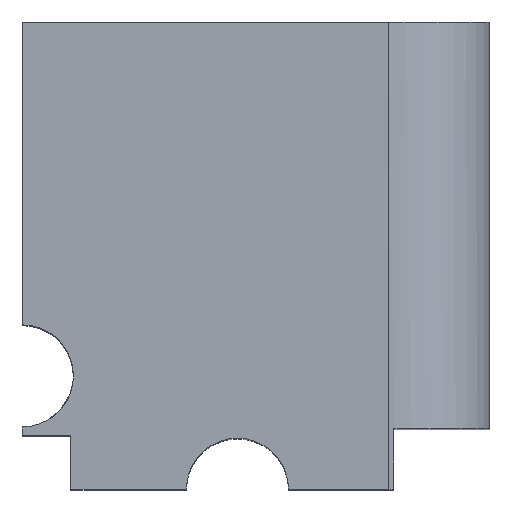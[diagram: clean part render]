
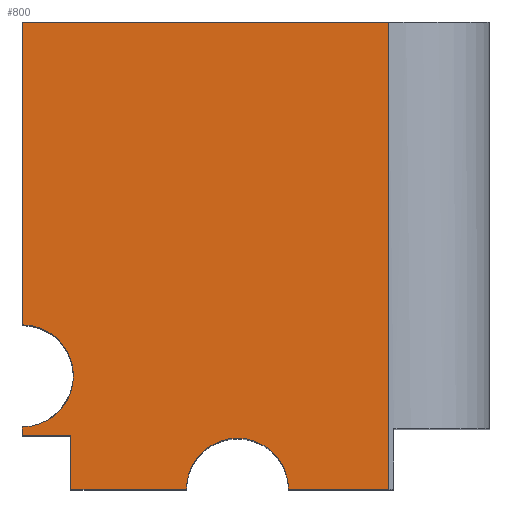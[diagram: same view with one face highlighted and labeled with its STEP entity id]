
A CAD part, top view. The second image highlights one B-rep face of the part: STEP entity #800.
In plain terms, the highlighted planar face has unit normal (0, 0, 1).
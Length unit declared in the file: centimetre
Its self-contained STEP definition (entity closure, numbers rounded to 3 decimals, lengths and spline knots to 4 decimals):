
#14 = CARTESIAN_POINT ( 'NONE',  ( 0., 1000., 1000. ) ) ;
#33 = CARTESIAN_POINT ( 'NONE',  ( 0., 351.7812, 1000. ) ) ;
#62 = CARTESIAN_POINT ( 'NONE',  ( 0., 1000., 1000. ) ) ;
#79 = CARTESIAN_POINT ( 'NONE',  ( 0., 242.5299, 1000. ) ) ;
#132 = LINE ( 'NONE', #852, #356 ) ;
#164 = EDGE_CURVE ( 'NONE', #335, #399, #1139, .T. ) ;
#184 = CARTESIAN_POINT ( 'NONE',  ( 460.3973, 0., 1000. ) ) ;
#186 = VECTOR ( 'NONE', #771, 100. ) ;
#191 = ORIENTED_EDGE ( 'NONE', *, *, #686, .T. ) ;
#226 = VECTOR ( 'NONE', #1092, 100. ) ;
#241 = DIRECTION ( 'NONE',  ( -1., 0., 0. ) ) ;
#248 = VECTOR ( 'NONE', #699, 100. ) ;
#292 = DIRECTION ( 'NONE',  ( 1., 0., 0. ) ) ;
#319 = VECTOR ( 'NONE', #241, 100. ) ;
#335 = VERTEX_POINT ( 'NONE', #347 ) ;
#347 = CARTESIAN_POINT ( 'NONE',  ( 351.2312, 0., 1000. ) ) ;
#351 = LINE ( 'NONE', #1081, #1287 ) ;
#356 = VECTOR ( 'NONE', #1054, 100. ) ;
#357 = VERTEX_POINT ( 'NONE', #1097 ) ;
#365 = LINE ( 'NONE', #1283, #226 ) ;
#399 = VERTEX_POINT ( 'NONE', #693 ) ;
#431 = AXIS2_PLACEMENT_3D ( 'NONE', #79, #611, #292 ) ;
#447 = LINE ( 'NONE', #659, #1316 ) ;
#452 = AXIS2_PLACEMENT_3D ( 'NONE', #783, #1180, #1074 ) ;
#502 = CARTESIAN_POINT ( 'NONE',  ( 103.8869, 0., 1000. ) ) ;
#507 = DIRECTION ( 'NONE',  ( -1., 0., 0. ) ) ;
#562 = ORIENTED_EDGE ( 'NONE', *, *, #700, .T. ) ;
#566 = DIRECTION ( 'NONE',  ( 0., 1., 0. ) ) ;
#572 = CARTESIAN_POINT ( 'NONE',  ( 0., 133.2786, 1000. ) ) ;
#580 = EDGE_CURVE ( 'NONE', #357, #764, #1012, .T. ) ;
#594 = CARTESIAN_POINT ( 'NONE',  ( 0., 0., 1000. ) ) ;
#611 = DIRECTION ( 'NONE',  ( 0., 0., 1. ) ) ;
#627 = AXIS2_PLACEMENT_3D ( 'NONE', #594, #900, #711 ) ;
#631 = DIRECTION ( 'NONE',  ( -1., 0., 0. ) ) ;
#648 = CIRCLE ( 'NONE', #431, 109.2513 ) ;
#659 = CARTESIAN_POINT ( 'NONE',  ( 783.6953, 1000., 1000. ) ) ;
#686 = EDGE_CURVE ( 'NONE', #399, #821, #132, .T. ) ;
#693 = CARTESIAN_POINT ( 'NONE',  ( 569.5634, 0., 1000. ) ) ;
#694 = PLANE ( 'NONE',  #627 ) ;
#696 = VERTEX_POINT ( 'NONE', #33 ) ;
#699 = DIRECTION ( 'NONE',  ( 0., -1., 0. ) ) ;
#700 = EDGE_CURVE ( 'NONE', #821, #357, #447, .T. ) ;
#704 = LINE ( 'NONE', #62, #248 ) ;
#711 = DIRECTION ( 'NONE',  ( 1., 0., 0. ) ) ;
#746 = EDGE_CURVE ( 'NONE', #966, #696, #648, .T. ) ;
#763 = EDGE_CURVE ( 'NONE', #764, #696, #704, .T. ) ;
#764 = VERTEX_POINT ( 'NONE', #812 ) ;
#771 = DIRECTION ( 'NONE',  ( 1., 0., 0. ) ) ;
#778 = CARTESIAN_POINT ( 'NONE',  ( 0., 0., 1000. ) ) ;
#783 = CARTESIAN_POINT ( 'NONE',  ( 0., 242.5299, 1000. ) ) ;
#790 = LINE ( 'NONE', #974, #319 ) ;
#800 = ADVANCED_FACE ( 'NONE', ( #1308 ), #694, .T. ) ;
#812 = CARTESIAN_POINT ( 'NONE',  ( 0., 1000., 1000. ) ) ;
#821 = VERTEX_POINT ( 'NONE', #904 ) ;
#834 = VERTEX_POINT ( 'NONE', #502 ) ;
#852 = CARTESIAN_POINT ( 'NONE',  ( 0., 0., 1000. ) ) ;
#892 = AXIS2_PLACEMENT_3D ( 'NONE', #184, #1130, #631 ) ;
#900 = DIRECTION ( 'NONE',  ( 0., 0., 1. ) ) ;
#904 = CARTESIAN_POINT ( 'NONE',  ( 783.6953, 0., 1000. ) ) ;
#915 = EDGE_LOOP ( 'NONE', ( #927, #191, #562, #1227, #1059, #1324, #1013, #1231, #1053, #1219, #979 ) ) ;
#927 = ORIENTED_EDGE ( 'NONE', *, *, #164, .T. ) ;
#961 = DIRECTION ( 'NONE',  ( 0., 1., 0. ) ) ;
#966 = VERTEX_POINT ( 'NONE', #1134 ) ;
#974 = CARTESIAN_POINT ( 'NONE',  ( 103.8869, 115.0864, 1000. ) ) ;
#979 = ORIENTED_EDGE ( 'NONE', *, *, #1024, .T. ) ;
#989 = VERTEX_POINT ( 'NONE', #1164 ) ;
#1007 = EDGE_CURVE ( 'NONE', #834, #1309, #351, .T. ) ;
#1012 = LINE ( 'NONE', #14, #1051 ) ;
#1013 = ORIENTED_EDGE ( 'NONE', *, *, #1288, .F. ) ;
#1024 = EDGE_CURVE ( 'NONE', #834, #335, #1263, .T. ) ;
#1025 = VERTEX_POINT ( 'NONE', #572 ) ;
#1051 = VECTOR ( 'NONE', #507, 100. ) ;
#1053 = ORIENTED_EDGE ( 'NONE', *, *, #1266, .F. ) ;
#1054 = DIRECTION ( 'NONE',  ( 1., 0., 0. ) ) ;
#1059 = ORIENTED_EDGE ( 'NONE', *, *, #763, .T. ) ;
#1074 = DIRECTION ( 'NONE',  ( 1., 0., 0. ) ) ;
#1080 = CARTESIAN_POINT ( 'NONE',  ( 103.8869, 115.0864, 1000. ) ) ;
#1081 = CARTESIAN_POINT ( 'NONE',  ( 103.8869, 0., 1000. ) ) ;
#1092 = DIRECTION ( 'NONE',  ( 0., -1., 0. ) ) ;
#1097 = CARTESIAN_POINT ( 'NONE',  ( 783.6953, 1000., 1000. ) ) ;
#1130 = DIRECTION ( 'NONE',  ( 0., 0., -1. ) ) ;
#1134 = CARTESIAN_POINT ( 'NONE',  ( 109.2513, 242.5299, 1000. ) ) ;
#1139 = CIRCLE ( 'NONE', #892, 109.1661 ) ;
#1153 = CIRCLE ( 'NONE', #452, 109.2513 ) ;
#1160 = EDGE_CURVE ( 'NONE', #1025, #989, #365, .T. ) ;
#1164 = CARTESIAN_POINT ( 'NONE',  ( 0., 115.0864, 1000. ) ) ;
#1180 = DIRECTION ( 'NONE',  ( 0., 0., 1. ) ) ;
#1219 = ORIENTED_EDGE ( 'NONE', *, *, #1007, .F. ) ;
#1227 = ORIENTED_EDGE ( 'NONE', *, *, #580, .T. ) ;
#1231 = ORIENTED_EDGE ( 'NONE', *, *, #1160, .T. ) ;
#1263 = LINE ( 'NONE', #778, #186 ) ;
#1266 = EDGE_CURVE ( 'NONE', #1309, #989, #790, .T. ) ;
#1283 = CARTESIAN_POINT ( 'NONE',  ( 0., 1000., 1000. ) ) ;
#1287 = VECTOR ( 'NONE', #566, 100. ) ;
#1288 = EDGE_CURVE ( 'NONE', #1025, #966, #1153, .T. ) ;
#1308 = FACE_OUTER_BOUND ( 'NONE', #915, .T. ) ;
#1309 = VERTEX_POINT ( 'NONE', #1080 ) ;
#1316 = VECTOR ( 'NONE', #961, 100. ) ;
#1324 = ORIENTED_EDGE ( 'NONE', *, *, #746, .F. ) ;
